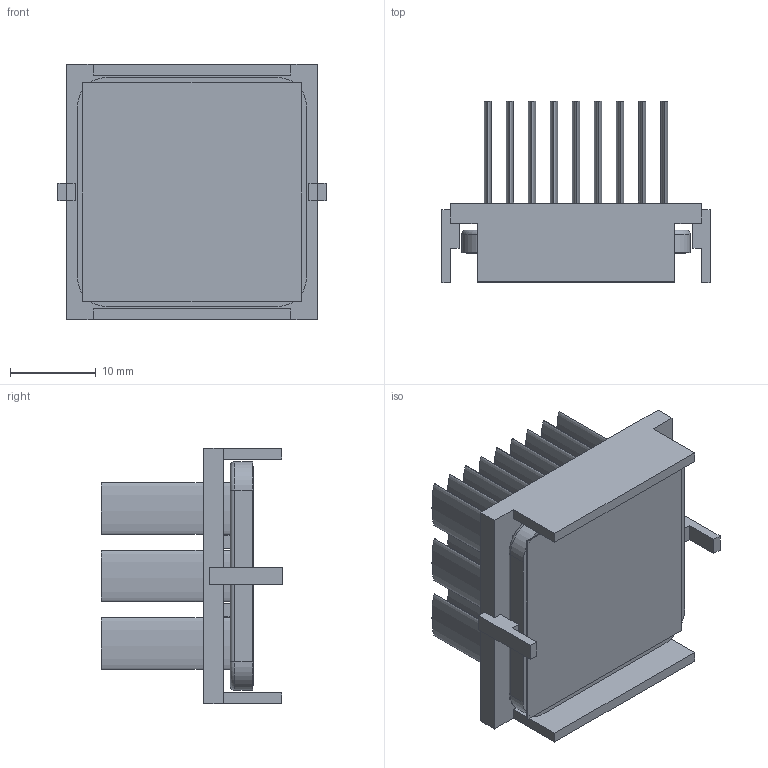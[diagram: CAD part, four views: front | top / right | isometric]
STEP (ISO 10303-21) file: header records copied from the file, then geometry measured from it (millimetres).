
FILE_DESCRIPTION (( 'STEP AP214' ), '1' );
FILE_NAME ('INM27001-18W_2.6+Y.STEP', '2023-02-17T18:20:10', ( '' ), ( '' ), 'SwSTEP 2.0', 'SolidWorks 2020', '' );
FILE_SCHEMA (( 'AUTOMOTIVE_DESIGN' ));
Length unit declared in the file: inch
Products named in the file (1): INM27001-18W_2.6+Y
Bounding box: 31.2 x 21.1 x 29.7 mm (x, y, z)
Volume: 4855.4 mm3; surface area: 10059.2 mm2
Topology: 3 solids, 3 shells, 163 faces, 382 edges, 252 vertices
Faces by surface type: plane 97, bspline 54, cylinder 8, torus 4
Entity records: 6919 total; most frequent: CARTESIAN_POINT 1500, ORIENTED_EDGE 764, DIRECTION 514, EDGE_CURVE 382, VECTOR 254, LINE 254, VERTEX_POINT 252, EDGE_LOOP 192
